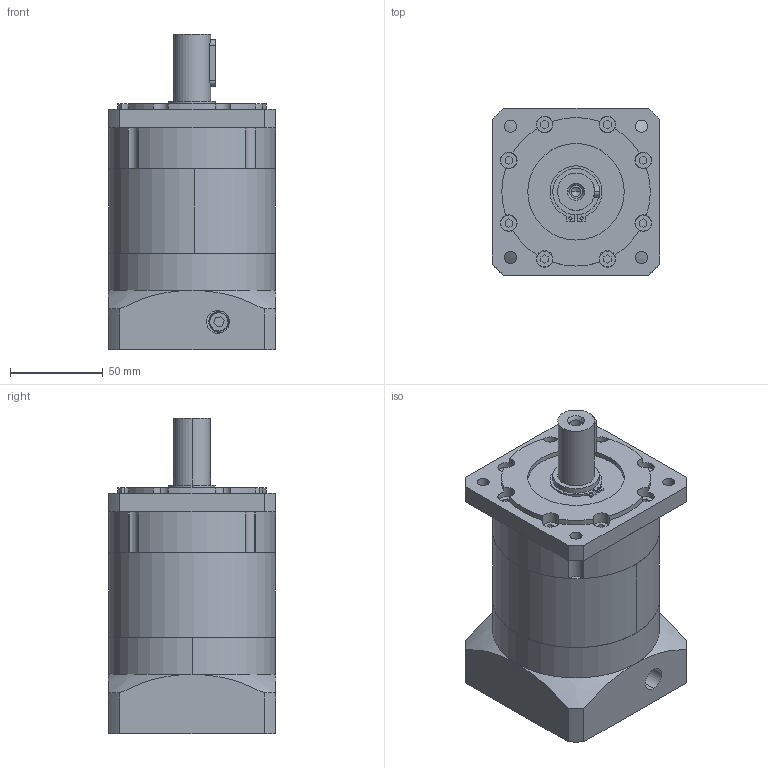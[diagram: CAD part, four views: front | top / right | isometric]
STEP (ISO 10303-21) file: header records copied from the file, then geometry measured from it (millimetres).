
FILE_DESCRIPTION (( 'STEP AP214' ), '1' );
FILE_NAME ('PLF-090-L2-S2-P2 19-70-90-M5.STEP', '2021-04-24T03:09:51', ( 'Microsoft' ), ( 'Microsoft China' ), 'SwSTEP 2.0', 'SolidWorks 2016', '' );
FILE_SCHEMA (( 'AUTOMOTIVE_DESIGN' ));
Length unit declared in the file: millimetre
Products named in the file (8): 粣創-6007 35x62x14; 邧埴瑩 6x6x25; 囀鞠褒蹟佪 M6x20; PLF90 狟屳唳_D6-90 D7-19 梓袧; PLF90 奻屳唳_梓袧; PLF90 內齿圈-优化_二级内齿圈; PLF90 蟀諉啣-梓袧_D8-70 D9-90 D10-M5 A2-90 L4-32 L6-47(32+15) L7-6 R-59.5梓袧; PLF-090-L2-S2-P2 19-70-90-M5
Assembly tree (7 placements, depth 2):
  PLF-090-L2-S2-P2 19-70-90-M5
    PLF90 蟀諉啣-梓袧_D8-70 D9-90 D10-M5 A2-90 L4-32 L6-47(32+15) L7-6 R-59.5梓袧
    PLF90 內齿圈-优化_二级内齿圈
    PLF90 奻屳唳_梓袧
    PLF90 狟屳唳_D6-90 D7-19 梓袧
    囀鞠褒蹟佪 M6x20
    邧埴瑩 6x6x25
    粣創-6007 35x62x14
Bounding box: 90 x 90 x 170 mm (x, y, z)
Volume: 809505.6 mm3; surface area: 145103.9 mm2
Topology: 7 solids, 7 shells, 537 faces, 1456 edges, 952 vertices
Faces by surface type: cylinder 195, plane 188, bspline 140, cone 14
Entity records: 28248 total; most frequent: CARTESIAN_POINT 9131, ORIENTED_EDGE 2892, DIRECTION 2477, EDGE_CURVE 1446, AXIS2_PLACEMENT_3D 1002, VERTEX_POINT 952, EDGE_LOOP 638, CIRCLE 595
